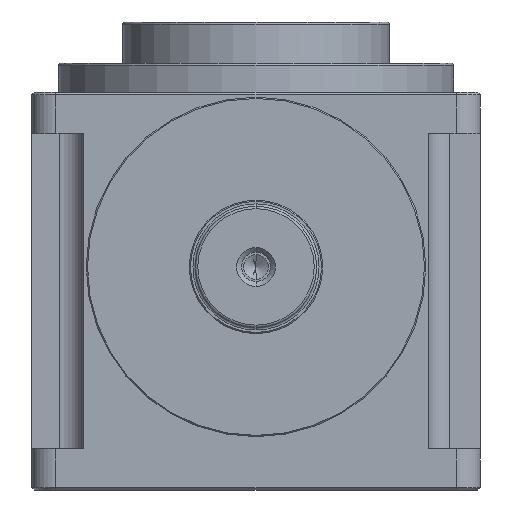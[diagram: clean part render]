
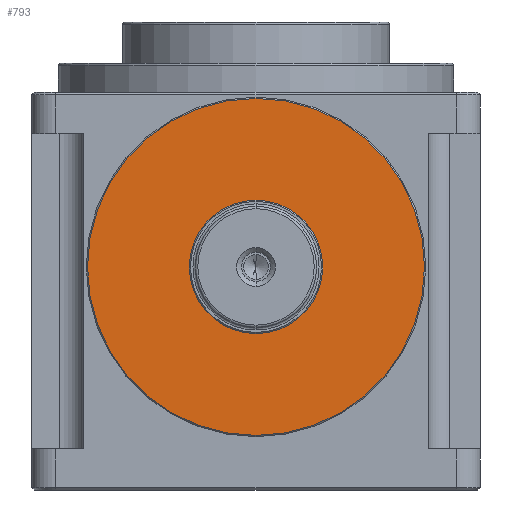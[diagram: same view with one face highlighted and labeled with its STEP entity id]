
A CAD part, front view. The second image highlights one B-rep face of the part: STEP entity #793.
In plain terms, the highlighted planar face has unit normal (0, -1, 0).
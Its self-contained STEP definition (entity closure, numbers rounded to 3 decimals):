
#12 = CARTESIAN_POINT ( 'NONE',  ( 0., -163., 27.5 ) ) ;
#269 = CARTESIAN_POINT ( 'NONE',  ( 0., -163., 0. ) ) ;
#406 = FACE_BOUND ( 'NONE', #7023, .T. ) ;
#693 = CIRCLE ( 'NONE', #5689, 27.5 ) ;
#793 = ADVANCED_FACE ( 'NONE', ( #406, #3687 ), #2824, .T. ) ;
#907 = AXIS2_PLACEMENT_3D ( 'NONE', #2935, #8536, #6024 ) ;
#1278 = EDGE_CURVE ( 'NONE', #3478, #6477, #2896, .T. ) ;
#1303 = DIRECTION ( 'NONE',  ( 0., -1., 0. ) ) ;
#1671 = VERTEX_POINT ( 'NONE', #9610 ) ;
#1707 = CARTESIAN_POINT ( 'NONE',  ( 0., -163., 69.5 ) ) ;
#2062 = DIRECTION ( 'NONE',  ( 0., 0., -1. ) ) ;
#2092 = CIRCLE ( 'NONE', #8401, 27.5 ) ;
#2824 = PLANE ( 'NONE',  #9785 ) ;
#2896 = CIRCLE ( 'NONE', #3043, 69.5 ) ;
#2935 = CARTESIAN_POINT ( 'NONE',  ( 0., -163., 0. ) ) ;
#3043 = AXIS2_PLACEMENT_3D ( 'NONE', #269, #6395, #5575 ) ;
#3478 = VERTEX_POINT ( 'NONE', #4722 ) ;
#3486 = CARTESIAN_POINT ( 'NONE',  ( 0., -163., 0. ) ) ;
#3687 = FACE_OUTER_BOUND ( 'NONE', #4570, .T. ) ;
#3935 = EDGE_CURVE ( 'NONE', #4867, #1671, #2092, .T. ) ;
#4570 = EDGE_LOOP ( 'NONE', ( #4735, #5792 ) ) ;
#4722 = CARTESIAN_POINT ( 'NONE',  ( 0., -163., -69.5 ) ) ;
#4735 = ORIENTED_EDGE ( 'NONE', *, *, #5181, .T. ) ;
#4797 = ORIENTED_EDGE ( 'NONE', *, *, #7428, .F. ) ;
#4867 = VERTEX_POINT ( 'NONE', #12 ) ;
#5181 = EDGE_CURVE ( 'NONE', #6477, #3478, #7693, .T. ) ;
#5575 = DIRECTION ( 'NONE',  ( 0., 0., -1. ) ) ;
#5656 = DIRECTION ( 'NONE',  ( 0., 0., -1. ) ) ;
#5689 = AXIS2_PLACEMENT_3D ( 'NONE', #7004, #6396, #7202 ) ;
#5792 = ORIENTED_EDGE ( 'NONE', *, *, #1278, .T. ) ;
#6024 = DIRECTION ( 'NONE',  ( 0., 0., -1. ) ) ;
#6365 = ORIENTED_EDGE ( 'NONE', *, *, #3935, .F. ) ;
#6395 = DIRECTION ( 'NONE',  ( 0., -1., 0. ) ) ;
#6396 = DIRECTION ( 'NONE',  ( 0., -1., 0. ) ) ;
#6477 = VERTEX_POINT ( 'NONE', #1707 ) ;
#6618 = DIRECTION ( 'NONE',  ( 0., -1., 0. ) ) ;
#7004 = CARTESIAN_POINT ( 'NONE',  ( 0., -163., 0. ) ) ;
#7023 = EDGE_LOOP ( 'NONE', ( #6365, #4797 ) ) ;
#7202 = DIRECTION ( 'NONE',  ( 0., 0., -1. ) ) ;
#7428 = EDGE_CURVE ( 'NONE', #1671, #4867, #693, .T. ) ;
#7693 = CIRCLE ( 'NONE', #907, 69.5 ) ;
#8401 = AXIS2_PLACEMENT_3D ( 'NONE', #9671, #6618, #5656 ) ;
#8536 = DIRECTION ( 'NONE',  ( 0., -1., 0. ) ) ;
#9610 = CARTESIAN_POINT ( 'NONE',  ( 0., -163., -27.5 ) ) ;
#9671 = CARTESIAN_POINT ( 'NONE',  ( 0., -163., 0. ) ) ;
#9785 = AXIS2_PLACEMENT_3D ( 'NONE', #3486, #1303, #2062 ) ;
